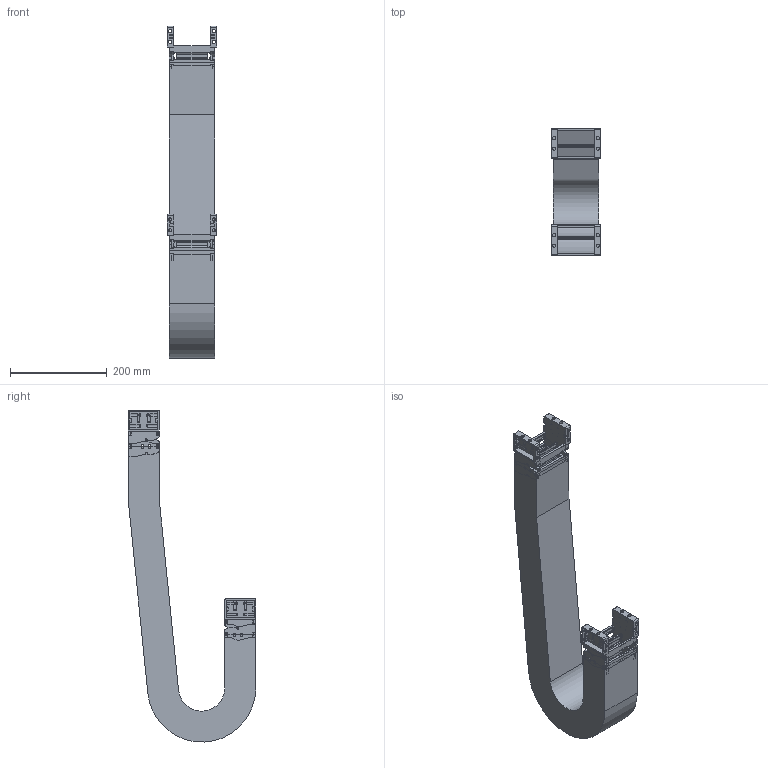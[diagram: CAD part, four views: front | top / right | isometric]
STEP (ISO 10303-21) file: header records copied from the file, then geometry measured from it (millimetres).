
FILE_DESCRIPTION((''),'2;1');
FILE_NAME('KST-50075-075_ASM','2017-12-08T',('KUNI004K'),(''),'PRO/ENGINEER BY PARAMETRIC TECHNOLOGY CORPORATION, 2015200','PRO/ENGINEER BY PARAMETRIC TECHNOLOGY CORPORATION, 2015200','');
FILE_SCHEMA(('AUTOMOTIVE_DESIGN { 1 0 10303 214 1 1 1 1 }'));
Length unit declared in the file: millimetre
Products named in the file (13): 50FBR; 50FBL; 40075C; KST50FB_W075_ASM; KST50075R; KST50075L; 40075H; KST50075-075_1_ASM; KST50075_R75_BODY; 50MBR; 50MBL; KST50MB_W075_ASM; KST-50075-075_ASM
Assembly tree (19 placements, depth 3):
  KST-50075-075_ASM
    KST50FB_W075_ASM
      50FBR
      50FBL
      40075C  x2
    KST50075-075_1_ASM  x2
      KST50075R
      KST50075L
      40075C
      40075H
    KST50075_R75_BODY
    KST50MB_W075_ASM
      50MBR
      50MBL
      40075C  x2
Bounding box: 103 x 264 x 687.41 mm (x, y, z)
Volume: 2192156.7 mm3; surface area: 761798.1 mm2
Topology: 21 solids, 21 shells, 2744 faces, 7470 edges, 4796 vertices
Faces by surface type: plane 1414, cylinder 954, bspline 308, torus 68
Entity records: 68230 total; most frequent: CARTESIAN_POINT 14169, ORIENTED_EDGE 7256, DIRECTION 6572, PRESENTATION_STYLE_ASSIGNMENT 4952, STYLED_ITEM 4952, CURVE_STYLE 3628, EDGE_CURVE 3628, VERTEX_POINT 2344
